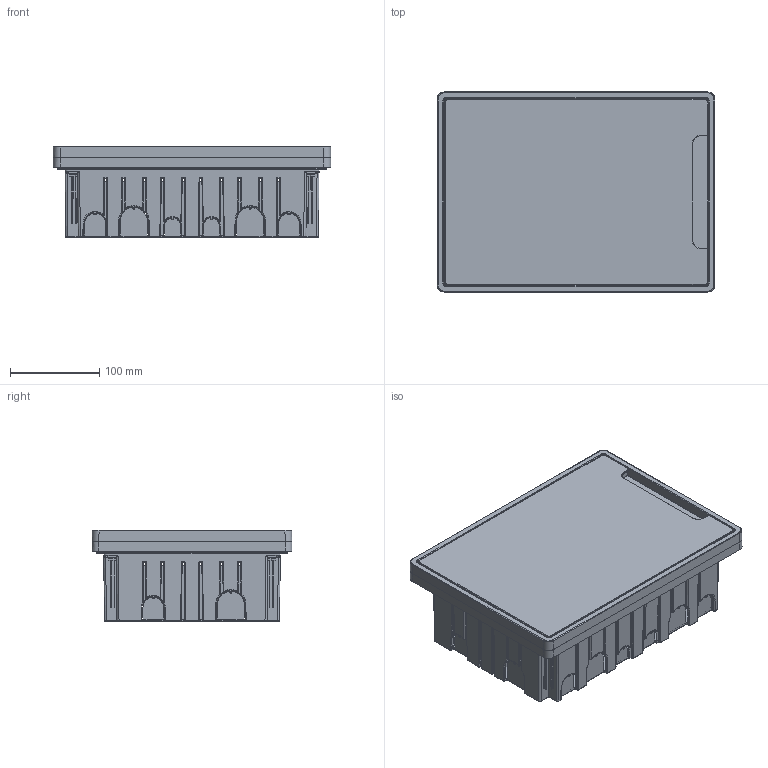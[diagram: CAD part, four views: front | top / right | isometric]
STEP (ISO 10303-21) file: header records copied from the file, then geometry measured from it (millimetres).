
FILE_DESCRIPTION (( 'STEP AP203' ), '1' );
FILE_NAME ('F12B1WD 糂琲籵褌隆 12.STEP', '2025-10-13T07:01:26', ( '' ), ( '' ), 'SwSTEP 2.0', 'SolidWorks 2022', '' );
FILE_SCHEMA (( 'CONFIG_CONTROL_DESIGN' ));
Length unit declared in the file: millimetre
Products named in the file (6): TPA.08.0162.00.01.0 simple; RB.2992.00.00.0 simple_-01; TPA.08.0162.00.03.0; F12B1WD встраиваемый 12; TPA.08.0089.00.04.0 simple; TPA.08.0089.00.05.0 simple
Assembly tree (6 placements, depth 2):
  F12B1WD встраиваемый 12
    TPA.08.0162.00.01.0 simple
    TPA.08.0089.00.04.0 simple
    TPA.08.0089.00.05.0 simple
    TPA.08.0162.00.03.0  x2
    RB.2992.00.00.0 simple_-01
Bounding box: 311.35 x 224.35 x 102.5 mm (x, y, z)
Volume: 1031440.4 mm3; surface area: 678520.8 mm2
Topology: 6 solids, 30 shells, 4021 faces, 10561 edges, 6503 vertices
Faces by surface type: plane 1536, cylinder 1429, bspline 666, torus 166, sphere 136, cone 88
Full cylindrical faces by diameter (mm): 3 x2, 4 x2, 4.66 x4, 5.21 x1, 9 x2
Entity records: 178263 total; most frequent: CARTESIAN_POINT 94068, ORIENTED_EDGE 19736, DIRECTION 14209, EDGE_CURVE 9868, VERTEX_POINT 6107, VECTOR 5131, LINE 5131, AXIS2_PLACEMENT_3D 4539
